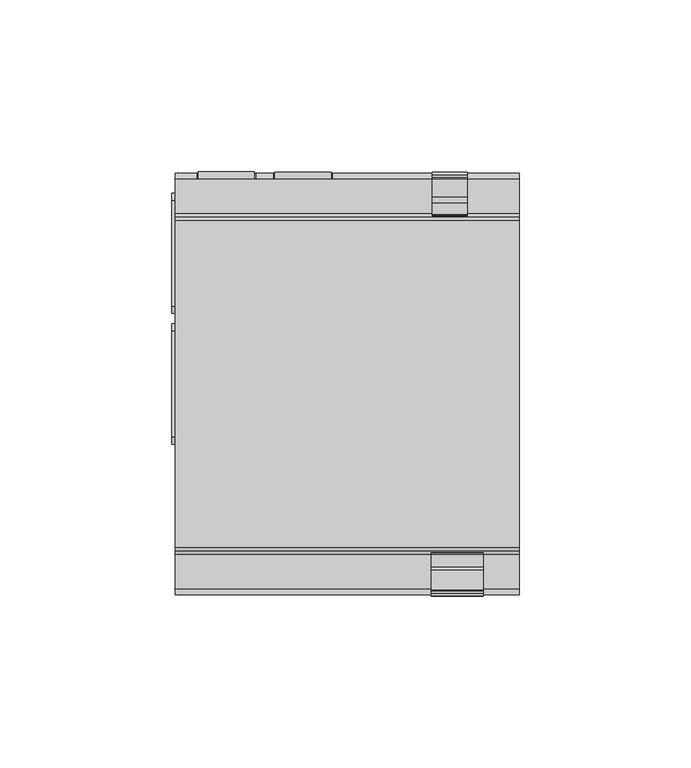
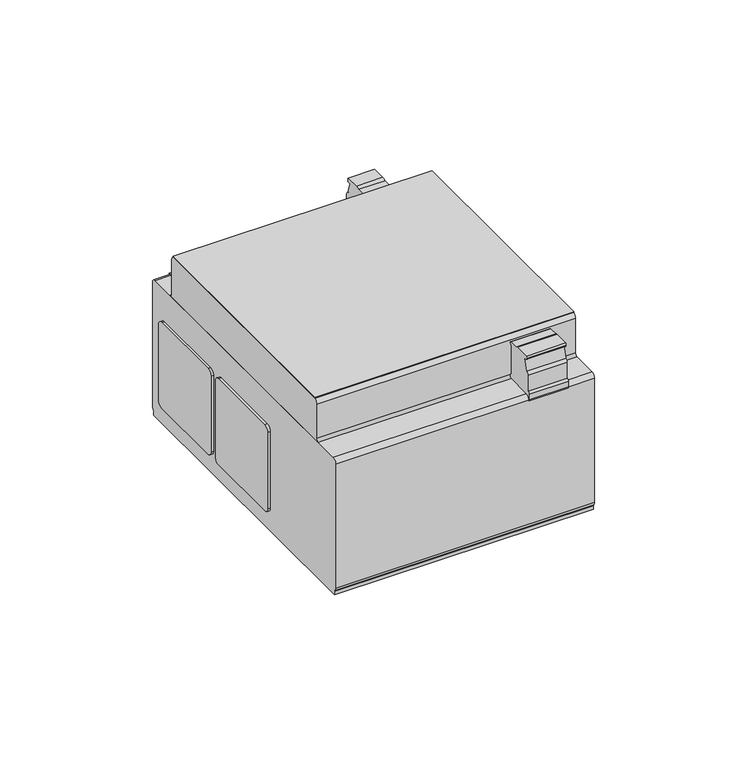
"""IFC4 building model written with IfcOpenShell, lengths in millimetres: proxy geometry, SDC-M 48V 3D DIN1 RS : SDC-M 48V 3D DIN1 RS."""

from ifc_helpers import new_model, si_unit, point, frame, frame_2d, origin, place, context, project, spatial, polyline, circle_curve, trimmed, segment, composite_curve, outline, extrude, source, transform, mapped, element, save
from ifc_brep_helpers import plane_surface, cylinder_surface, advanced_brep


def electrical_equipment_9ed82ea9(model_context):
    return source(origin(), model_context, "Body", "SolidModel", [
        extrude(outline(polyline([(-50.051839, -39.1847523), (-50.051839, 55.8152477), (49.948161, 55.8152477), (49.948161, -39.1847523), (-50.051839, -39.1847523)])), frame((0.0, 0.0, 72.5), z_axis=(0.0, 0.0, 1.0), x_axis=(1.0, 0.0, 0.0)), (0.0, 0.0, 1.0), 0.25),
        extrude(outline(composite_curve([segment(trimmed(circle_curve(frame_2d((61.8152477, 40.5)), 2.0), [point((61.8152477, 42.5))], [point((63.8152477, 40.5))], False, "CARTESIAN"), True, "CONTINUOUS"), segment(polyline([(63.8152477, 40.5), (63.8152477, 9.5)]), True, "CONTINUOUS"), segment(trimmed(circle_curve(frame_2d((61.8152477, 9.5)), 2.0), [point((63.8152477, 9.5))], [point((61.8152477, 7.5))], False, "CARTESIAN"), True, "CONTINUOUS"), segment(polyline([(61.8152477, 7.5), (30.8152477, 7.5)]), True, "CONTINUOUS"), segment(trimmed(circle_curve(frame_2d((30.8152477, 9.5)), 2.0), [point((30.8152477, 7.5))], [point((28.8152477, 9.5))], False, "CARTESIAN"), True, "CONTINUOUS"), segment(polyline([(28.8152477, 9.5), (28.8152477, 40.5)]), True, "CONTINUOUS"), segment(trimmed(circle_curve(frame_2d((30.8152477, 40.5)), 2.0), [point((28.8152477, 40.5))], [point((30.8152477, 42.5))], False, "CARTESIAN"), True, "CONTINUOUS"), segment(polyline([(30.8152477, 42.5), (61.8152477, 42.5)]), True, "CONTINUOUS")], self_intersect=False)), frame((-51.051839, 0.0, 0.0), z_axis=(1.0, 0.0, 0.0), x_axis=(0.0, 1.0, 0.0)), (0.0, 0.0, 1.0), 1.0),
        extrude(outline(composite_curve([segment(trimmed(circle_curve(frame_2d((23.8152477, 40.5)), 2.0), [point((23.8152477, 42.5))], [point((25.8152477, 40.5))], False, "CARTESIAN"), True, "CONTINUOUS"), segment(polyline([(25.8152477, 40.5), (25.8152477, 9.5)]), True, "CONTINUOUS"), segment(trimmed(circle_curve(frame_2d((23.8152477, 9.5)), 2.0), [point((25.8152477, 9.5))], [point((23.8152477, 7.5))], False, "CARTESIAN"), True, "CONTINUOUS"), segment(polyline([(23.8152477, 7.5), (-7.2859387, 7.5)]), True, "CONTINUOUS"), segment(trimmed(circle_curve(frame_2d((-7.2859387, 9.3988137)), 1.8988137), [point((-7.2859387, 7.5))], [point((-9.1847523, 9.3988137))], False, "CARTESIAN"), True, "CONTINUOUS"), segment(polyline([(-9.1847523, 9.3988137), (-9.1847523, 40.6349698)]), True, "CONTINUOUS"), segment(trimmed(circle_curve(frame_2d((-7.174553, 40.4841787)), 2.0158471), [point((-9.1847523, 40.6349698))], [point((-7.1643536, 42.5))], False, "CARTESIAN"), True, "CONTINUOUS"), segment(polyline([(-7.1643536, 42.5), (23.8152477, 42.5)]), True, "CONTINUOUS")], self_intersect=False)), frame((-51.051839, 0.0, 0.0), z_axis=(1.0, 0.0, 0.0), x_axis=(0.0, 1.0, 0.0)), (0.0, 0.0, 1.0), 1.0),
        extrude(outline(composite_curve([segment(polyline([(62.6675701, 71.07), (68.052955, 71.07)]), True, "CONTINUOUS"), segment(trimmed(circle_curve(frame_2d((67.3611586, 70.3582814)), 0.992535), [point((68.052955, 71.07))], [point((67.9642656, 69.57))], False, "CARTESIAN"), True, "CONTINUOUS"), segment(polyline([(67.9642656, 69.57), (66.952955, 69.57), (68.1059554, 65.2669438)]), True, "CONTINUOUS"), segment(trimmed(circle_curve(frame_2d((67.5445429, 63.84)), 1.5334122), [point((68.1059554, 65.2669438))], [point((69.077955, 63.84))], False, "CARTESIAN"), True, "CONTINUOUS"), segment(polyline([(69.077955, 63.84), (69.077955, 57.6942542)]), True, "CONTINUOUS"), segment(trimmed(circle_curve(frame_2d((70.6160007, 58.4684748)), 1.7219181), [point((69.077955, 57.6942542))], [point((69.8808426, 56.9113799))], True, "CARTESIAN"), True, "CONTINUOUS"), segment(polyline([(69.8808426, 56.9113799), (69.8808426, 53.6358813), (68.372955, 53.37), (59.3563391, 53.37), (57.272955, 53.6053488), (57.272955, 56.6274333)]), True, "CONTINUOUS"), segment(trimmed(circle_curve(frame_2d((58.1441961, 56.4948595)), 0.88127), [point((57.272955, 56.6274333))], [point((58.247955, 57.37))], False, "CARTESIAN"), True, "CONTINUOUS"), segment(polyline([(58.247955, 57.37), (58.247955, 68.5084691)]), True, "CONTINUOUS"), segment(trimmed(circle_curve(frame_2d((57.6106003, 68.8574423)), 0.7266384), [point((58.247955, 68.5084691))], [point((57.752955, 69.57))], True, "CARTESIAN"), True, "CONTINUOUS"), segment(trimmed(circle_curve(frame_2d((58.212021, 70.1612762)), 0.7485647), [point((57.752955, 69.57))], [point((57.752955, 70.7525524))], False, "CARTESIAN"), True, "CONTINUOUS"), segment(polyline([(57.752955, 70.7525524), (61.0835378, 70.7525524)]), True, "CONTINUOUS"), segment(trimmed(circle_curve(frame_2d((62.6675701, 66.9591927)), 4.1108073), [point((61.0835378, 70.7525524))], [point((62.6675701, 71.07))], False, "CARTESIAN"), True, "CONTINUOUS")], self_intersect=False)), frame((24.658161, 0.0, 0.0), z_axis=(1.0, 0.0, 0.0), x_axis=(0.0, 1.0, 0.0)), (0.0, 0.0, 1.0), 10.2),
        extrude(outline(polyline([(41.4, -27.0445356), (54.9, -27.0445356), (54.9, -43.3445356), (41.4, -43.3445356), (41.4, -27.0445356)]), holes=[polyline([(53.7, -38.8445356), (53.7, -31.5445356), (51.04, -31.5445356), (51.04, -29.0445356), (43.75, -29.0445356), (43.75, -41.3445356), (51.04, -41.3445356), (51.04, -38.8445356), (53.7, -38.8445356)])]), frame((0.0, 54.1352477, 0.0), z_axis=(0.0, 1.0, 0.0), x_axis=(0.0, 0.0, 1.0)), (0.0, 0.0, 1.0), 15.88),
        extrude(outline(polyline([(41.4, -4.751839), (54.9, -4.751839), (54.9, -21.051839), (41.4, -21.051839), (41.4, -4.751839)]), holes=[polyline([(53.7, -16.551839), (53.7, -9.251839), (51.04, -9.251839), (51.04, -6.751839), (43.75, -6.751839), (43.75, -19.051839), (51.04, -19.051839), (51.04, -16.551839), (53.7, -16.551839)])]), frame((0.0, 54.2152477, 0.0), z_axis=(0.0, 1.0, 0.0), x_axis=(0.0, 0.0, 1.0)), (0.0, 0.0, 1.0), 15.72),
        extrude(outline(composite_curve([segment(polyline([(-12.6847523, -8.0), (-12.6847523, -0.5380934)]), True, "CONTINUOUS"), segment(trimmed(circle_curve(frame_2d((-12.1030066, -0.5672452)), 0.5824757), [point((-12.6847523, -0.5380934))], [point((-11.9706783, 0.0))], False, "CARTESIAN"), True, "CONTINUOUS"), segment(polyline([(-11.9706783, 0.0), (36.8152477, 0.0)]), True, "CONTINUOUS"), segment(trimmed(circle_curve(frame_2d((36.7213032, -0.6038595)), 0.6111235), [point((36.8152477, 0.0))], [point((37.3152477, -0.7477409))], False, "CARTESIAN"), True, "CONTINUOUS"), segment(polyline([(37.3152477, -0.7477409), (37.3152477, -5.1112181)]), True, "CONTINUOUS"), segment(trimmed(circle_curve(frame_2d((36.5037101, -5.1979414)), 0.8161582), [point((37.3152477, -5.1112181))], [point((36.9056035, -5.9082905))], False, "CARTESIAN"), True, "CONTINUOUS"), segment(polyline([(36.9056035, -5.9082905), (34.9083207, -7.0382909)]), True, "CONTINUOUS"), segment(trimmed(circle_curve(frame_2d((34.5016558, -6.6086943)), 0.5915485), [point((34.9083207, -7.0382909))], [point((33.948562, -6.8184961))], False, "CARTESIAN"), True, "CONTINUOUS"), segment(polyline([(33.948562, -6.8184961), (33.5217757, -6.0792807), (24.9605848, -7.9333399)]), True, "CONTINUOUS"), segment(trimmed(circle_curve(frame_2d((25.5758559, -7.5482896)), 0.7258252), [point((24.9605848, -7.9333399))], [point((25.2484939, -6.9004808))], False, "CARTESIAN"), True, "CONTINUOUS"), segment(polyline([(25.2484939, -6.9004808), (34.2511702, -4.950811)]), True, "CONTINUOUS"), segment(trimmed(circle_curve(frame_2d((34.2511702, -4.2254055)), 0.7254055), [point((34.2511702, -4.950811))], [point((34.2511702, -3.5))], True, "CARTESIAN"), True, "CONTINUOUS"), segment(polyline([(34.2511702, -3.5), (-6.0198924, -3.5)]), True, "CONTINUOUS"), segment(trimmed(circle_curve(frame_2d((-6.2198634, -4.2130718)), 0.7405807), [point((-6.0198924, -3.5))], [point((-6.8630383, -3.84594))], True, "CARTESIAN"), True, "CONTINUOUS"), segment(polyline([(-6.8630383, -3.84594), (-9.8337638, -8.0056936)]), True, "CONTINUOUS"), segment(trimmed(circle_curve(frame_2d((-10.5783113, -7.6921106)), 0.8078894), [point((-9.8337638, -8.0056936))], [point((-10.5783113, -8.5))], False, "CARTESIAN"), True, "CONTINUOUS"), segment(polyline([(-10.5783113, -8.5), (-11.9706783, -8.5)]), True, "CONTINUOUS"), segment(trimmed(circle_curve(frame_2d((-12.1526634, -8.0)), 0.5320889), [point((-11.9706783, -8.5))], [point((-12.6847523, -8.0))], False, "CARTESIAN"), True, "CONTINUOUS")], self_intersect=False)), frame((-40.051839, 0.0, 0.0), z_axis=(1.0, 0.0, 0.0), x_axis=(0.0, 1.0, 0.0)), (0.0, 0.0, 1.0), 80.0),
        extrude(outline(composite_curve([segment(polyline([(57.8152477, 55.6), (-41.1847523, 55.6)]), True, "CONTINUOUS"), segment(trimmed(circle_curve(frame_2d((-41.1847523, 56.6)), 1.0), [point((-41.1847523, 55.6))], [point((-40.1847523, 56.6))], True, "CARTESIAN"), True, "CONTINUOUS"), segment(polyline([(-40.1847523, 56.6), (-40.1847523, 70.6314162)]), True, "CONTINUOUS"), segment(trimmed(circle_curve(frame_2d((-38.368734, 70.6880139)), 1.8169001), [point((-40.1847523, 70.6314162))], [point((-38.5022719, 72.5))], False, "CARTESIAN"), True, "CONTINUOUS"), segment(polyline([(-38.5022719, 72.5), (55.0152477, 72.5)]), True, "CONTINUOUS"), segment(trimmed(circle_curve(frame_2d((55.0152477, 70.7)), 1.8), [point((55.0152477, 72.5))], [point((56.8152477, 70.7))], False, "CARTESIAN"), True, "CONTINUOUS"), segment(polyline([(56.8152477, 70.7), (56.8152477, 56.6)]), True, "CONTINUOUS"), segment(trimmed(circle_curve(frame_2d((57.8152477, 56.6)), 1.0), [point((56.8152477, 56.6))], [point((57.8152477, 55.6))], True, "CARTESIAN"), True, "CONTINUOUS")], self_intersect=False)), frame((-50.051839, 0.0, 0.0), z_axis=(1.0, 0.0, 0.0), x_axis=(0.0, 1.0, 0.0)), (0.0, 0.0, 1.0), 100.0),
        advanced_brep(
        [(-50.051839, 67.8152477, 55.6), (-50.051839, -51.2987985, 55.6), (24.403161, -51.2987985, 55.6), (24.403161, -40.7724597, 55.6), (39.5783602, -40.7724597, 55.6), (39.5783602, -51.2987985, 55.6), (49.948161, -51.2987985, 55.6), (49.948161, 67.8152477, 55.6), (34.858161, 67.8152477, 55.6), (34.858161, 57.272955, 55.6), (24.698161, 57.272955, 55.6), (24.698161, 67.8152477, 55.6), (-4.251839, 67.8152477, 55.6), (-21.551839, 67.8152477, 55.6), (-26.551839, 67.8152477, 55.6), (-43.851839, 67.8152477, 55.6), (49.948161, 68.8152477, 0.0), (49.948161, -52.1847523, 0.0), (-50.051839, -52.1847523, 0.0), (-50.051839, 68.8152477, 0.0), (49.948161, 69.6152477, 3.3), (-50.051839, 69.6152477, 3.3), (-50.051839, 69.6152477, 53.9367188), (-43.851839, 69.6152477, 53.9367188), (-43.851839, 69.6152477, 40.5), (-26.551839, 69.6152477, 40.5), (-26.551839, 69.6152477, 53.9367188), (-21.551839, 69.6152477, 53.9367188), (-21.551839, 69.6152477, 40.5), (-4.251839, 69.6152477, 40.5), (-4.251839, 69.6152477, 53.9367188), (24.698161, 69.6152477, 53.9367188), (24.698161, 69.6152477, 53.6053488), (34.858161, 69.6152477, 53.6053488), (34.858161, 69.6152477, 53.9367188), (49.948161, 69.6152477, 53.9367188), (-50.051839, -52.1847523, 1.5), (-50.051839, -51.1847523, 1.5), (-50.051839, -52.9847523, 3.3), (-50.051839, -52.9847523, 53.9140462), (-50.051839, 67.8152477, 1.5), (-50.051839, 68.8152477, 1.5), (49.948161, -52.9847523, 3.3), (49.948161, -52.9847523, 53.9140462), (39.5783602, -52.9847523, 53.9140462), (39.5783602, -52.9847523, 53.575975), (24.403161, -52.9847523, 53.5763924), (24.403161, -52.9847523, 53.9140462), (49.948161, 68.8152477, 1.5), (49.948161, 67.8152477, 1.5), (49.948161, -51.1847523, 1.5), (49.948161, -52.1847523, 1.5), (-4.251839, 67.8152477, 40.5), (-21.551839, 67.8152477, 40.5), (-43.851839, 67.8152477, 40.5), (-26.551839, 67.8152477, 40.5), (34.858161, 57.272955, 53.6053488), (24.698161, 57.272955, 53.6053488), (39.5783602, -44.9511161, 70.77), (39.5783602, -45.7299449, 71.1), (39.5783602, -51.5524597, 71.1), (39.5783602, -51.8524597, 70.3184733), (39.5783602, -51.3858777, 69.6), (39.5783602, -50.4524597, 69.6), (39.5783602, -51.6790361, 65.0223543), (39.5783602, -52.5774597, 63.9565594), (39.5783602, -52.5774597, 57.4), (39.5783602, -53.3724597, 56.605), (39.5783602, -53.3724597, 54.2548177), (39.5783602, -40.7724597, 56.8638943), (39.5783602, -41.7474597, 57.4), (39.5783602, -41.7474597, 69.6), (39.5783602, -40.9560165, 69.9580051), (39.5783602, -41.2921575, 70.77), (24.403161, -44.9511161, 70.77), (24.403161, -41.2921575, 70.77), (24.403161, -40.9560165, 69.9580051), (24.403161, -41.7474597, 69.6), (24.403161, -41.7474597, 57.4), (24.403161, -40.7724597, 56.8638943), (24.403161, -53.3724597, 54.2548177), (24.403161, -53.3724597, 56.605), (24.403161, -52.5774597, 57.4), (24.403161, -52.5774597, 63.9565594), (24.403161, -51.6790361, 65.0223543), (24.403161, -50.4524597, 69.6), (24.403161, -51.3858777, 69.6), (24.403161, -51.8524597, 70.3184733), (24.403161, -51.5524597, 71.1), (24.403161, -45.7299449, 71.1)],
        [
            (0, 1),
            (1, 2),
            (2, 3),
            (3, 4),
            (4, 5),
            (5, 6),
            (6, 7),
            (7, 8),
            (8, 9),
            (9, 10),
            (10, 11),
            (11, 12),
            (12, 13),
            (13, 14),
            (14, 15),
            (15, 0),
            (16, 17),
            (17, 18),
            (18, 19),
            (19, 16),
            (20, 21),
            (21, 22),
            (22, 23),
            (23, 24),
            (24, 25),
            (25, 26),
            (26, 27),
            (27, 28),
            (28, 29),
            (29, 30),
            (30, 31),
            (31, 32),
            (32, 33),
            (33, 34),
            (34, 35),
            (35, 20),
            (18, 36),
            (36, 37),
            (37, 38, circle_curve(frame((-50.051839, -51.1847523, 3.3), z_axis=(-1.0, 0.0, 0.0), x_axis=(0.0, 1.0, 0.0)), 1.8)),
            (38, 39),
            (39, 1, circle_curve(frame((-50.051839, -51.2987985, 53.9140462), z_axis=(-1.0, 0.0, 0.0), x_axis=(0.0, 1.0, 0.0)), 1.6859538)),
            (0, 22, circle_curve(frame((-50.051839, 67.8152477, 53.794381), z_axis=(-1.0, 0.0, 0.0), x_axis=(0.0, 1.0, 0.0)), 1.805619)),
            (21, 40, circle_curve(frame((-50.051839, 67.8152477, 3.3), z_axis=(-1.0, 0.0, 0.0), x_axis=(0.0, 1.0, 0.0)), 1.8)),
            (40, 41),
            (41, 19),
            (38, 42),
            (42, 43),
            (43, 44),
            (44, 45),
            (45, 46),
            (46, 47),
            (47, 39),
            (16, 48),
            (48, 49),
            (49, 20, circle_curve(frame((49.948161, 67.8152477, 3.3), z_axis=(1.0, 0.0, 0.0), x_axis=(0.0, 1.0, 0.0)), 1.8)),
            (35, 7, circle_curve(frame((49.948161, 67.8152477, 53.794381), z_axis=(1.0, 0.0, 0.0), x_axis=(0.0, 1.0, 0.0)), 1.805619)),
            (6, 43, circle_curve(frame((49.948161, -51.2987985, 53.9140462), z_axis=(1.0, 0.0, 0.0), x_axis=(0.0, 1.0, 0.0)), 1.6859538)),
            (42, 50, circle_curve(frame((49.948161, -51.1847523, 3.3), z_axis=(1.0, 0.0, 0.0), x_axis=(0.0, 1.0, 0.0)), 1.8)),
            (50, 51),
            (51, 17),
            (47, 2, circle_curve(frame((24.403161, -51.2987985, 53.9140462), z_axis=(-1.0, 0.0, 0.0), x_axis=(0.0, 1.0, 0.0)), 1.6859538)),
            (5, 44, circle_curve(frame((39.5783602, -51.2987985, 53.9140462), z_axis=(1.0, 0.0, 0.0), x_axis=(0.0, 1.0, 0.0)), 1.6859538)),
            (37, 50),
            (36, 51),
            (41, 48),
            (40, 49),
            (13, 27, circle_curve(frame((-21.551839, 67.8152477, 53.794381), z_axis=(-1.0, 0.0, 0.0), x_axis=(0.0, 1.0, 0.0)), 1.805619)),
            (26, 14, circle_curve(frame((-26.551839, 67.8152477, 53.794381), z_axis=(1.0, 0.0, 0.0), x_axis=(0.0, 1.0, 0.0)), 1.805619)),
            (15, 23, circle_curve(frame((-43.851839, 67.8152477, 53.794381), z_axis=(-1.0, 0.0, 0.0), x_axis=(0.0, 1.0, 0.0)), 1.805619)),
            (34, 8, circle_curve(frame((34.858161, 67.8152477, 53.794381), z_axis=(1.0, 0.0, 0.0), x_axis=(0.0, 1.0, 0.0)), 1.805619)),
            (30, 12, circle_curve(frame((-4.251839, 67.8152477, 53.794381), z_axis=(1.0, 0.0, 0.0), x_axis=(0.0, 1.0, 0.0)), 1.805619)),
            (11, 31, circle_curve(frame((24.698161, 67.8152477, 53.794381), z_axis=(-1.0, 0.0, 0.0), x_axis=(0.0, 1.0, 0.0)), 1.805619)),
            (12, 52),
            (52, 53),
            (53, 13),
            (54, 15),
            (14, 55),
            (55, 54),
            (53, 28),
            (52, 29),
            (55, 25),
            (24, 54),
            (56, 57),
            (57, 10),
            (9, 56),
            (57, 32),
            (56, 33),
            (58, 59, circle_curve(frame((39.5783602, -45.7299449, 70.0159481), z_axis=(1.0, 0.0, 0.0), x_axis=(0.0, 1.0, 0.0)), 1.0840519)),
            (59, 60),
            (60, 61, circle_curve(frame((39.5783602, -51.04204, 70.4557253), z_axis=(1.0, 0.0, 0.0), x_axis=(0.0, 1.0, 0.0)), 0.82196)),
            (61, 62, circle_curve(frame((39.5783602, -51.1857449, 70.2407053), z_axis=(1.0, 0.0, 0.0), x_axis=(0.0, 1.0, 0.0)), 0.671235)),
            (62, 63),
            (63, 64),
            (64, 65, circle_curve(frame((39.5783602, -51.4960746, 63.9565594), z_axis=(1.0, 0.0, 0.0), x_axis=(0.0, 1.0, 0.0)), 1.0813851)),
            (65, 66),
            (66, 67, circle_curve(frame((39.5783602, -52.5774597, 56.605), z_axis=(1.0, 0.0, 0.0), x_axis=(0.0, 1.0, 0.0)), 0.795)),
            (67, 68),
            (68, 45, circle_curve(frame((39.5783602, -52.9062927, 54.071227), z_axis=(1.0, 0.0, 0.0), x_axis=(0.0, 1.0, 0.0)), 0.5010162)),
            (4, 69),
            (69, 70, circle_curve(frame((39.5783602, -41.5437437, 56.6158374), z_axis=(1.0, 0.0, 0.0), x_axis=(0.0, 1.0, 0.0)), 0.8101921)),
            (70, 71),
            (71, 72, circle_curve(frame((39.5783602, -41.5529456, 70.2238127), z_axis=(1.0, 0.0, 0.0), x_axis=(0.0, 1.0, 0.0)), 0.6534355)),
            (72, 73, circle_curve(frame((39.5783602, -41.7191878, 70.1176491), z_axis=(1.0, 0.0, 0.0), x_axis=(0.0, 1.0, 0.0)), 0.7796901)),
            (73, 58),
            (74, 75),
            (75, 76, circle_curve(frame((24.403161, -41.7191878, 70.1176491), z_axis=(-1.0, 0.0, 0.0), x_axis=(0.0, 1.0, 0.0)), 0.7796901)),
            (76, 77, circle_curve(frame((24.403161, -41.5529456, 70.2238127), z_axis=(-1.0, 0.0, 0.0), x_axis=(0.0, 1.0, 0.0)), 0.6534355)),
            (77, 78),
            (78, 79, circle_curve(frame((24.403161, -41.5437437, 56.6158374), z_axis=(-1.0, 0.0, 0.0), x_axis=(0.0, 1.0, 0.0)), 0.8101921)),
            (79, 3),
            (46, 80, circle_curve(frame((24.403161, -52.9062927, 54.071227), z_axis=(-1.0, 0.0, 0.0), x_axis=(0.0, 1.0, 0.0)), 0.5010162)),
            (80, 81),
            (81, 82, circle_curve(frame((24.403161, -52.5774597, 56.605), z_axis=(-1.0, 0.0, 0.0), x_axis=(0.0, 1.0, 0.0)), 0.795)),
            (82, 83),
            (83, 84, circle_curve(frame((24.403161, -51.4960746, 63.9565594), z_axis=(-1.0, 0.0, 0.0), x_axis=(0.0, 1.0, 0.0)), 1.0813851)),
            (84, 85),
            (85, 86),
            (86, 87, circle_curve(frame((24.403161, -51.1857449, 70.2407053), z_axis=(-1.0, 0.0, 0.0), x_axis=(0.0, 1.0, 0.0)), 0.671235)),
            (87, 88, circle_curve(frame((24.403161, -51.04204, 70.4557253), z_axis=(-1.0, 0.0, 0.0), x_axis=(0.0, 1.0, 0.0)), 0.82196)),
            (88, 89),
            (89, 74, circle_curve(frame((24.403161, -45.7299449, 70.0159481), z_axis=(-1.0, 0.0, 0.0), x_axis=(0.0, 1.0, 0.0)), 1.0840519)),
            (58, 74),
            (89, 59),
            (88, 60),
            (87, 61),
            (86, 62),
            (85, 63),
            (84, 64),
            (83, 65),
            (82, 66),
            (81, 67),
            (80, 68),
            (79, 69),
            (78, 70),
            (77, 71),
            (76, 72),
            (75, 73),
        ],
        [
            plane_surface(frame((-50.051839, 69.6152477, 55.6), z_axis=(0.0, 0.0, 1.0), x_axis=(-1.0, 0.0, 0.0))),
            plane_surface(frame((-50.051839, 69.6152477, 0.0), z_axis=(0.0, 0.0, -1.0), x_axis=(1.0, 0.0, 0.0))),
            plane_surface(frame((49.948161, 69.6152477, 55.6), z_axis=(0.0, 1.0, 0.0), x_axis=(0.0, 0.0, -1.0))),
            plane_surface(frame((-50.051839, 69.6152477, 55.6), z_axis=(-1.0, 0.0, 0.0), x_axis=(0.0, 0.0, -1.0))),
            plane_surface(frame((-50.051839, -52.9847523, 55.6), z_axis=(0.0, -1.0, 0.0), x_axis=(0.0, 0.0, -1.0))),
            plane_surface(frame((49.948161, -52.9847523, 55.6), z_axis=(1.0, 0.0, 0.0), x_axis=(0.0, 0.0, -1.0))),
            cylinder_surface(frame((49.948161, -51.2987985, 53.9140462), z_axis=(1.0, 0.0, 0.0), x_axis=(0.0, 1.0, 0.0)), 1.6859538),
            cylinder_surface(frame((49.948161, -51.1847523, 3.3), z_axis=(1.0, 0.0, 0.0), x_axis=(0.0, 1.0, 0.0)), 1.8),
            plane_surface(frame((-50.051839, -51.1847523, 1.5), z_axis=(0.0, 0.0, 1.0), x_axis=(1.0, 0.0, 0.0))),
            plane_surface(frame((-50.051839, -52.1847523, 1.5), z_axis=(0.0, -1.0, 0.0), x_axis=(1.0, 0.0, 0.0))),
            plane_surface(frame((-50.051839, 68.8152477, 0.0), z_axis=(0.0, 1.0, 0.0), x_axis=(1.0, 0.0, 0.0))),
            plane_surface(frame((-50.051839, 68.8152477, 1.5), z_axis=(0.0, 0.0, 1.0), x_axis=(1.0, 0.0, 0.0))),
            cylinder_surface(frame((49.948161, 67.8152477, 3.3), z_axis=(1.0, 0.0, 0.0), x_axis=(0.0, 1.0, 0.0)), 1.8),
            cylinder_surface(frame((49.948161, 67.8152477, 53.794381), z_axis=(1.0, 0.0, 0.0), x_axis=(0.0, 1.0, 0.0)), 1.805619),
            plane_surface(frame((-21.551839, 67.8152477, 55.6), z_axis=(0.0, 1.0, 0.0), x_axis=(0.0, 0.0, -1.0))),
            plane_surface(frame((-21.551839, 67.8152477, 55.6), z_axis=(1.0, 0.0, 0.0), x_axis=(0.0, 1.0, 0.0))),
            plane_surface(frame((-21.551839, 67.8152477, 40.5), z_axis=(0.0, 0.0, 1.0), x_axis=(0.0, 1.0, 0.0))),
            plane_surface(frame((-4.251839, 67.8152477, 40.5), z_axis=(-1.0, 0.0, 0.0), x_axis=(0.0, 1.0, 0.0))),
            plane_surface(frame((-43.851839, 67.8152477, 40.5), z_axis=(0.0, 0.0, 1.0), x_axis=(0.0, 1.0, 0.0))),
            plane_surface(frame((-26.551839, 67.8152477, 40.5), z_axis=(-1.0, 0.0, 0.0), x_axis=(0.0, 1.0, 0.0))),
            plane_surface(frame((-43.851839, 67.8152477, 55.6), z_axis=(1.0, 0.0, 0.0), x_axis=(0.0, 1.0, 0.0))),
            plane_surface(frame((24.698161, 57.272955, 56.6), z_axis=(0.0, 1.0, 0.0), x_axis=(0.0, 0.0, -1.0))),
            plane_surface(frame((24.698161, 57.272955, 56.6), z_axis=(1.0, 0.0, 0.0), x_axis=(0.0, 1.0, 0.0))),
            plane_surface(frame((24.698161, 57.272955, 53.6053488), z_axis=(0.0, 0.0, 1.0), x_axis=(0.0, 1.0, 0.0))),
            plane_surface(frame((34.858161, 57.272955, 53.6053488), z_axis=(-1.0, 0.0, 0.0), x_axis=(0.0, 1.0, 0.0))),
            plane_surface(frame((39.5783602, -44.645893, 70.0159481), z_axis=(1.0, 0.0, 0.0), x_axis=(0.0, 0.0, 1.0))),
            plane_surface(frame((24.403161, -44.645893, 70.0159481), z_axis=(-1.0, 0.0, 0.0), x_axis=(0.0, 0.0, -1.0))),
            cylinder_surface(frame((24.403161, -45.7299449, 70.0159481), z_axis=(1.0, 0.0, 0.0), x_axis=(0.0, 1.0, 0.0)), 1.0840519),
            plane_surface(frame((39.5783602, -45.7299449, 71.1), z_axis=(0.0, 0.0, 1.0), x_axis=(-1.0, 0.0, 0.0))),
            cylinder_surface(frame((24.403161, -51.04204, 70.4557253), z_axis=(1.0, 0.0, 0.0), x_axis=(0.0, 1.0, 0.0)), 0.82196),
            cylinder_surface(frame((24.403161, -51.1857449, 70.2407053), z_axis=(1.0, 0.0, 0.0), x_axis=(0.0, 1.0, 0.0)), 0.671235),
            plane_surface(frame((39.5783602, -51.3858777, 69.6), z_axis=(0.0, 0.0, -1.0), x_axis=(-1.0, 0.0, 0.0))),
            plane_surface(frame((39.5783602, -50.4524597, 69.6), z_axis=(0.0, -0.9659258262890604, 0.2588190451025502), x_axis=(-1.0, 0.0, 0.0))),
            cylinder_surface(frame((24.403161, -51.4960746, 63.9565594), z_axis=(1.0, 0.0, 0.0), x_axis=(0.0, 1.0, 0.0)), 1.0813851),
            plane_surface(frame((39.5783602, -52.5774597, 63.9565594), z_axis=(0.0, -1.0, 0.0), x_axis=(-1.0, 0.0, 0.0))),
            cylinder_surface(frame((24.403161, -52.5774597, 56.605), z_axis=(1.0, 0.0, 0.0), x_axis=(0.0, 1.0, 0.0)), 0.795),
            plane_surface(frame((39.5783602, -53.3724597, 56.605), z_axis=(0.0, -1.0, 0.0), x_axis=(-1.0, 0.0, 0.0))),
            cylinder_surface(frame((24.403161, -52.9062927, 54.071227), z_axis=(1.0, 0.0, 0.0), x_axis=(0.0, 1.0, 0.0)), 0.5010162),
            plane_surface(frame((39.5783602, -40.7724597, 54.4), z_axis=(0.0, 1.0, 0.0), x_axis=(-1.0, 0.0, 0.0))),
            cylinder_surface(frame((24.403161, -41.5437437, 56.6158374), z_axis=(1.0, 0.0, 0.0), x_axis=(0.0, 1.0, 0.0)), 0.8101921),
            plane_surface(frame((39.5783602, -41.7474597, 57.4), z_axis=(0.0, 1.0, 0.0), x_axis=(-1.0, 0.0, 0.0))),
            cylinder_surface(frame((24.403161, -41.5529456, 70.2238127), z_axis=(1.0, 0.0, 0.0), x_axis=(0.0, 1.0, 0.0)), 0.6534355),
            cylinder_surface(frame((24.403161, -41.7191878, 70.1176491), z_axis=(1.0, 0.0, 0.0), x_axis=(0.0, 1.0, 0.0)), 0.7796901),
            plane_surface(frame((39.5783602, -41.2921575, 70.77), z_axis=(0.0, 0.0, 1.0), x_axis=(-1.0, 0.0, 0.0))),
        ],
        [
            (0, [[1, 2, 3, 4, 5, 6, 7, 8, 9, 10, 11, 12, 13, 14, 15, 16]]),
            (1, [[17, 18, 19, 20]]),
            (2, [[21, 22, 23, 24, 25, 26, 27, 28, 29, 30, 31, 32, 33, 34, 35, 36]]),
            (3, [[-19, 37, 38, 39, 40, 41, -1, 42, -22, 43, 44, 45]]),
            (4, [[-40, 46, 47, 48, 49, 50, 51, 52]]),
            (5, [[-17, 53, 54, 55, -36, 56, -7, 57, -47, 58, 59, 60]]),
            (6, [[-41, -52, 61, -2]]),
            (6, [[-57, -6, 62, -48]]),
            (7, [[63, -58, -46, -39]]),
            (8, [[-63, -38, 64, -59]]),
            (9, [[-64, -37, -18, -60]]),
            (10, [[65, -53, -20, -45]]),
            (11, [[-65, -44, 66, -54]]),
            (12, [[-66, -43, -21, -55]]),
            (13, [[-14, 67, -27, 68]]),
            (13, [[-42, -16, 69, -23]]),
            (13, [[-56, -35, 70, -8]]),
            (13, [[71, -12, 72, -31]]),
            (14, [[73, 74, 75, -13]]),
            (14, [[76, -15, 77, 78]]),
            (15, [[-75, 79, -28, -67]]),
            (16, [[-74, 80, -29, -79]]),
            (17, [[-73, -71, -30, -80]]),
            (18, [[-78, 81, -25, 82]]),
            (19, [[-77, -68, -26, -81]]),
            (20, [[-76, -82, -24, -69]]),
            (21, [[83, 84, -10, 85]]),
            (22, [[86, -32, -72, -11, -84]]),
            (23, [[-83, 87, -33, -86]]),
            (24, [[-87, -85, -9, -70, -34]]),
            (25, [[88, 89, 90, 91, 92, 93, 94, 95, 96, 97, 98, -49, -62, -5, 99, 100, 101, 102, 103, 104]]),
            (26, [[105, 106, 107, 108, 109, 110, -3, -61, -51, 111, 112, 113, 114, 115, 116, 117, 118, 119, 120, 121]]),
            (27, [[-88, 122, -121, 123]]),
            (28, [[-89, -123, -120, 124]]),
            (29, [[-90, -124, -119, 125]]),
            (30, [[-91, -125, -118, 126]]),
            (31, [[-92, -126, -117, 127]]),
            (32, [[-93, -127, -116, 128]]),
            (33, [[-94, -128, -115, 129]]),
            (34, [[-95, -129, -114, 130]]),
            (35, [[-96, -130, -113, 131]]),
            (36, [[-97, -131, -112, 132]]),
            (37, [[-98, -132, -111, -50]]),
            (38, [[133, -99, -4, -110]]),
            (39, [[-100, -133, -109, 134]]),
            (40, [[-101, -134, -108, 135]]),
            (41, [[-102, -135, -107, 136]]),
            (42, [[-103, -136, -106, 137]]),
            (43, [[-104, -137, -105, -122]]),
        ],
    ),
    ])


if __name__ == "__main__":
    model = new_model("IFC4")
    model_context = context("Model", 3, world=origin())
    ifc_project = project(units=[si_unit("LENGTHUNIT", "METRE", prefix="MILLI")], contexts=[model_context])
    site = spatial("IfcSite", under=ifc_project)
    building = spatial("IfcBuilding", under=site)
    placement = place(None, origin())
    electrical_equipment_shape = electrical_equipment_9ed82ea9(model_context)
    element("IfcBuildingElementProxy", 1, Name="SDC-M 48V 3D DIN1 RS : SDC-M 48V 3D DIN1 RS", ObjectType="SDC-M 48V 3D DIN1 RS : SDC-M 48V 3D DIN1 RS", at=placement, inside=building, context=model_context, shape_type="MappedRepresentation", body=[
        mapped(electrical_equipment_shape, transform((0.0, 0.0, 0.0), x_axis=(1.0, 0.0, 0.0), y_axis=(0.0, 1.0, 0.0), z_axis=(0.0, 0.0, 1.0))),
    ])
    save(model, "model.ifc")
